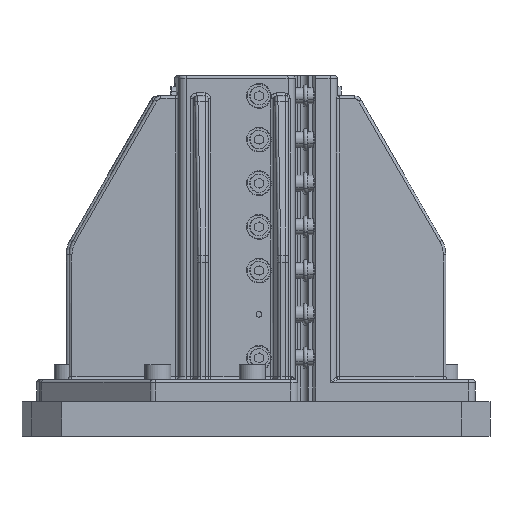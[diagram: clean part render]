
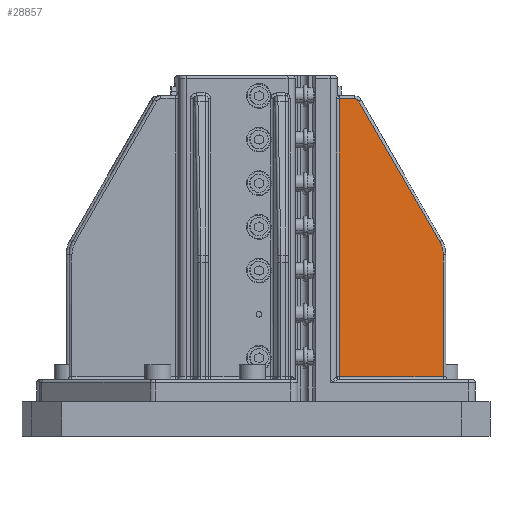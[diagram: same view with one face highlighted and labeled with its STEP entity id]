
A CAD part, left-side view. The second image highlights one B-rep face of the part: STEP entity #28857.
In plain terms, the highlighted planar face has unit normal (-0.998, -0.071, 0).
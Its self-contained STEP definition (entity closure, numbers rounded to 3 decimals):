
#28076=CARTESIAN_POINT('Vertex',(-30.965,-45.989,232.)) ;
#28080=CARTESIAN_POINT('Control Point',(-30.965,-45.989,232.)) ;
#28081=CARTESIAN_POINT('Control Point',(-30.946,-46.253,232.)) ;
#28082=CARTESIAN_POINT('Control Point',(-30.927,-46.517,231.971)) ;
#28083=CARTESIAN_POINT('Control Point',(-30.909,-46.776,231.913)) ;
#28084=CARTESIAN_POINT('Control Point',(-30.866,-47.373,231.707)) ;
#28085=CARTESIAN_POINT('Control Point',(-30.828,-47.9,231.353)) ;
#28086=CARTESIAN_POINT('Control Point',(-30.809,-48.171,231.103)) ;
#28087=CARTESIAN_POINT('Control Point',(-30.793,-48.401,230.815)) ;
#28088=CARTESIAN_POINT('Control Point',(-30.78,-48.582,230.5)) ;
#28089=CARTESIAN_POINT('Vertex',(-30.78,-48.582,230.5)) ;
#28125=CARTESIAN_POINT('Line Origine',(-28.951,-74.147,186.135)) ;
#28129=CARTESIAN_POINT('Vertex',(-26.791,-104.351,133.718)) ;
#28207=CARTESIAN_POINT('Control Point',(-26.791,-104.351,133.718)) ;
#28208=CARTESIAN_POINT('Control Point',(-26.753,-104.878,132.803)) ;
#28209=CARTESIAN_POINT('Control Point',(-26.72,-105.338,131.849)) ;
#28210=CARTESIAN_POINT('Control Point',(-26.692,-105.728,130.864)) ;
#28211=CARTESIAN_POINT('Control Point',(-26.652,-106.291,129.06)) ;
#28212=CARTESIAN_POINT('Control Point',(-26.629,-106.615,127.2)) ;
#28213=CARTESIAN_POINT('Control Point',(-26.622,-106.71,126.375)) ;
#28214=CARTESIAN_POINT('Control Point',(-26.618,-106.758,125.546)) ;
#28215=CARTESIAN_POINT('Control Point',(-26.618,-106.758,124.718)) ;
#28216=CARTESIAN_POINT('Vertex',(-26.618,-106.758,124.718)) ;
#28817=CARTESIAN_POINT('Axis2P3D Location',(-31.835,-33.83,136.)) ;
#28822=CARTESIAN_POINT('Line Origine',(-31.717,-35.482,136.)) ;
#28826=CARTESIAN_POINT('Vertex',(-31.717,-35.482,232.)) ;
#28828=CARTESIAN_POINT('Vertex',(-31.717,-35.482,41.)) ;
#28831=CARTESIAN_POINT('Line Origine',(-29.138,-71.528,41.)) ;
#28835=CARTESIAN_POINT('Vertex',(-26.618,-106.758,41.)) ;
#28838=CARTESIAN_POINT('Line Origine',(-26.618,-106.758,136.)) ;
#28843=CARTESIAN_POINT('Line Origine',(-29.138,-71.528,232.)) ;
#28126=DIRECTION('Vector Direction',(0.036,-0.499,-0.866)) ;
#28818=DIRECTION('Axis2P3D Direction',(0.997,0.071,0.)) ;
#28819=DIRECTION('Axis2P3D XDirection',(0.,0.,-1.)) ;
#28823=DIRECTION('Vector Direction',(0.,0.,-1.)) ;
#28832=DIRECTION('Vector Direction',(-0.071,0.997,0.)) ;
#28839=DIRECTION('Vector Direction',(0.,0.,-1.)) ;
#28844=DIRECTION('Vector Direction',(-0.071,0.997,0.)) ;
#28820=AXIS2_PLACEMENT_3D('Plane Axis2P3D',#28817,#28818,#28819) ;
#28849=ORIENTED_EDGE('',*,*,#28830,.T.) ;
#28850=ORIENTED_EDGE('',*,*,#28837,.T.) ;
#28851=ORIENTED_EDGE('',*,*,#28842,.F.) ;
#28852=ORIENTED_EDGE('',*,*,#28218,.F.) ;
#28853=ORIENTED_EDGE('',*,*,#28131,.F.) ;
#28854=ORIENTED_EDGE('',*,*,#28091,.F.) ;
#28855=ORIENTED_EDGE('',*,*,#28847,.F.) ;
#28127=VECTOR('Line Direction',#28126,1.) ;
#28824=VECTOR('Line Direction',#28823,1.) ;
#28833=VECTOR('Line Direction',#28832,1.) ;
#28840=VECTOR('Line Direction',#28839,1.) ;
#28845=VECTOR('Line Direction',#28844,1.) ;
#28857=ADVANCED_FACE('EGT_209_Winkel_f_Senkr_Anbind_8KT_Rohr_SW50.2\\5251925.1\\Winkel f. Senkr. Anbind. 8kt.-Rohr SW80',(#28856),#28821,.F.) ;
#28079=B_SPLINE_CURVE_WITH_KNOTS('',5,(#28080,#28081,#28082,#28083,#28084,#28085,#28086,#28087,#28088),.UNSPECIFIED.,.F.,.U.,(6,3,6),(15.269,17.839,21.377),.UNSPECIFIED.) ;
#28206=B_SPLINE_CURVE_WITH_KNOTS('',5,(#28207,#28208,#28209,#28210,#28211,#28212,#28213,#28214,#28215),.UNSPECIFIED.,.F.,.U.,(6,3,6),(77.511,85.409,91.601),.UNSPECIFIED.) ;
#28091=EDGE_CURVE('',#28077,#28090,#28079,.T.) ;
#28131=EDGE_CURVE('',#28090,#28130,#28128,.T.) ;
#28218=EDGE_CURVE('',#28130,#28217,#28206,.T.) ;
#28830=EDGE_CURVE('',#28827,#28829,#28825,.T.) ;
#28837=EDGE_CURVE('',#28829,#28836,#28834,.F.) ;
#28842=EDGE_CURVE('',#28217,#28836,#28841,.T.) ;
#28847=EDGE_CURVE('',#28827,#28077,#28846,.F.) ;
#28848=EDGE_LOOP('',(#28849,#28850,#28851,#28852,#28853,#28854,#28855)) ;
#28856=FACE_OUTER_BOUND('',#28848,.T.) ;
#28128=LINE('Line',#28125,#28127) ;
#28825=LINE('Line',#28822,#28824) ;
#28834=LINE('Line',#28831,#28833) ;
#28841=LINE('Line',#28838,#28840) ;
#28846=LINE('Line',#28843,#28845) ;
#28821=PLANE('Plane',#28820) ;
#28077=VERTEX_POINT('',#28076) ;
#28090=VERTEX_POINT('',#28089) ;
#28130=VERTEX_POINT('',#28129) ;
#28217=VERTEX_POINT('',#28216) ;
#28827=VERTEX_POINT('',#28826) ;
#28829=VERTEX_POINT('',#28828) ;
#28836=VERTEX_POINT('',#28835) ;
